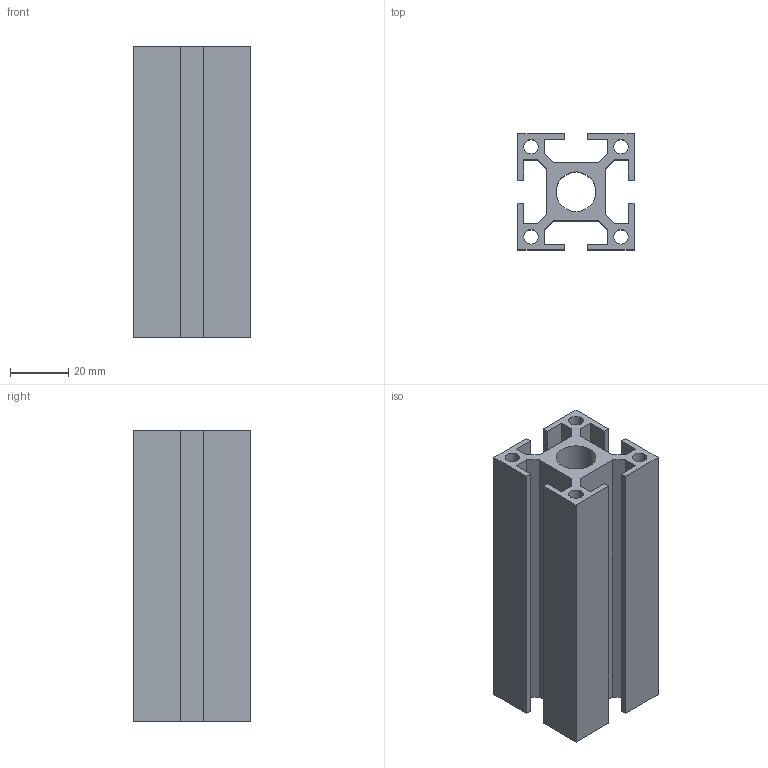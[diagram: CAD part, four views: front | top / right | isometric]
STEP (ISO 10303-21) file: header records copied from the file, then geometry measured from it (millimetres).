
FILE_DESCRIPTION(('starvars output'),'2;1');
FILE_NAME('C03-1.stp','16:03:27 2010/05/06',('web2CAD AG, germany'),( 'web2CAD AG, germany'),'unknown preprocess','ACIS', 'unknown authorization');
FILE_SCHEMA(('CONFIG_CONTROL_DESIGN {UNKNOWN IMPLEMENTATION LEVEL}'));
Length unit declared in the file: millimetre
Products named in the file (1): PRODUCT_ID_1
Bounding box: 40 x 40 x 100 mm (x, y, z)
Volume: 64501.9 mm3; surface area: 45614.5 mm2
Topology: 1 solids, 1 shells, 56 faces, 162 edges, 108 vertices
Faces by surface type: plane 46, cylinder 10
Entity records: 1856 total; most frequent: ORIENTED_EDGE 324, CARTESIAN_POINT 311, DIRECTION 264, EDGE_CURVE 162, VECTOR 142, LINE 142, VERTEX_POINT 108, EDGE_LOOP 66
